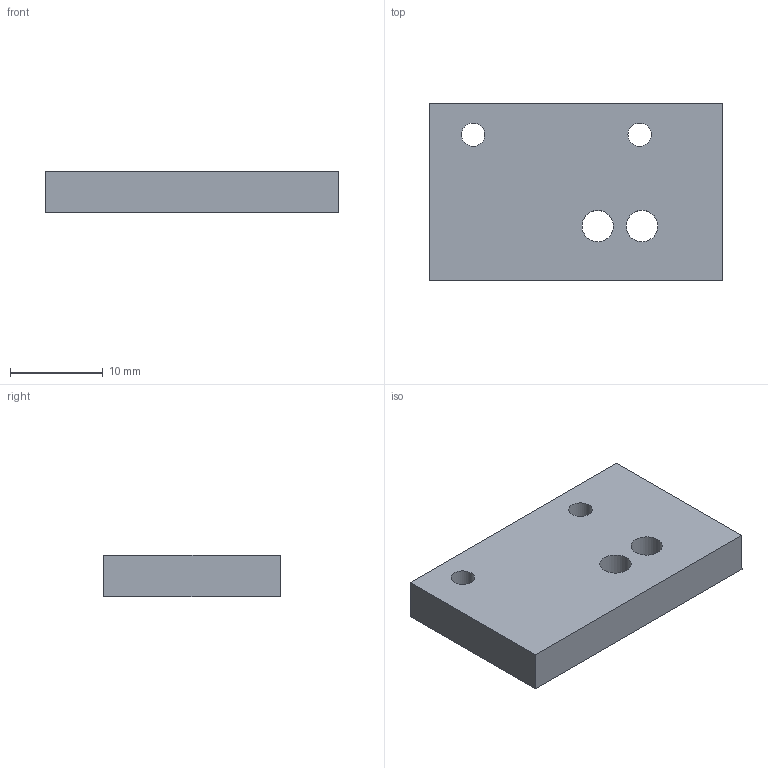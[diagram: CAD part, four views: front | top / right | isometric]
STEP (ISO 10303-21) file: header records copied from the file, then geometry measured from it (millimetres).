
FILE_DESCRIPTION(/* description */ (''),/* implementation_level */ '2;1');
FILE_NAME(/* name */ 'C:/Users/KB/Desktop/Print_ZSwitchMount_Honeywell411SX21-T_Standard v3.step',/* time_stamp */ '2021-03-06T18:53:34-05:00',/* author */ (''),/* organization */ (''),/* preprocessor_version */ 'ST-DEVELOPER v18.1',/* originating_system */ 'Autodesk Translation Framework v9.10.0.1330',/* authorisation */ '');
FILE_SCHEMA (('AUTOMOTIVE_DESIGN { 1 0 10303 214 3 1 1 }'));
Length unit declared in the file: millimetre
Products named in the file (1): Print_ZSwitchMount_Honeywell411SX21-T_Standard
Bounding box: 31.61 x 19.12 x 4.5 mm (x, y, z)
Volume: 2592.6 mm3; surface area: 1776.5 mm2
Topology: 1 solids, 1 shells, 10 faces, 24 edges, 16 vertices
Faces by surface type: plane 6, cylinder 4
Full cylindrical faces by diameter (mm): 2.529 x2, 3.4 x2
Entity records: 345 total; most frequent: DIRECTION 54, CARTESIAN_POINT 51, ORIENTED_EDGE 48, EDGE_CURVE 24, AXIS2_PLACEMENT_3D 19, EDGE_LOOP 18, LINE 16, VECTOR 16
